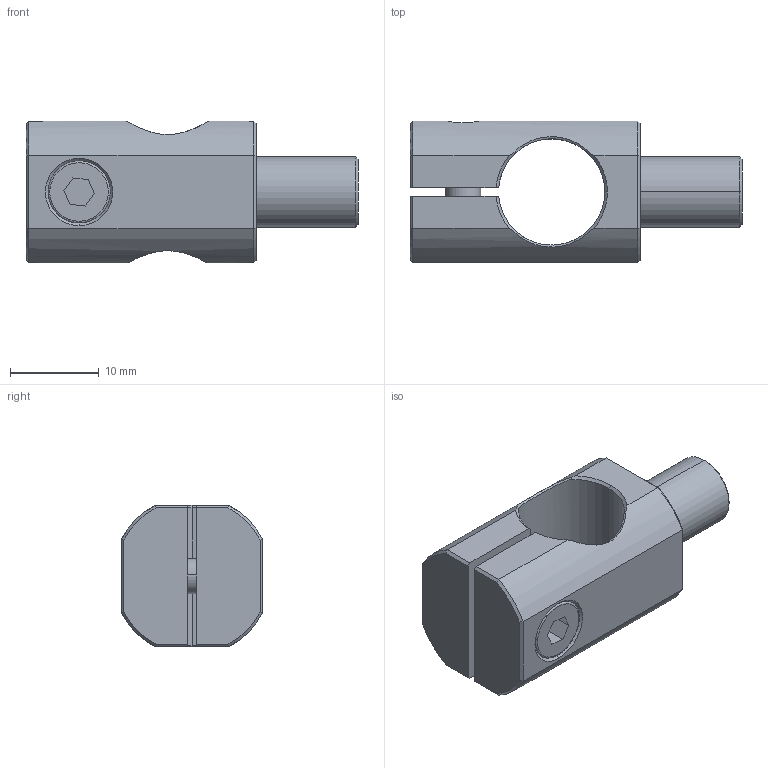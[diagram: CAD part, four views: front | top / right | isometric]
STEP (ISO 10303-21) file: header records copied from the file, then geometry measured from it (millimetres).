
FILE_DESCRIPTION (( 'STEP AP214' ), '1' );
FILE_NAME ('SMBR4-1208M4T.STEP', '2023-01-03T02:19:43', ( 'Windows User' ), ( 'P R C' ), 'SwSTEP 2.0', 'SolidWorks 2018', '' );
FILE_SCHEMA (( 'AUTOMOTIVE_DESIGN' ));
Length unit declared in the file: millimetre
Products named in the file (1): SMBR4-1208M4T
Bounding box: 37.5 x 16 x 16 mm (x, y, z)
Volume: 4282.8 mm3; surface area: 3492.6 mm2
Topology: 3 solids, 3 shells, 285 faces, 795 edges, 519 vertices
Faces by surface type: plane 230, cylinder 26, cone 23, bspline 6
Entity records: 14497 total; most frequent: CARTESIAN_POINT 3855, ORIENTED_EDGE 1590, DIRECTION 1568, EDGE_CURVE 795, AXIS2_PLACEMENT_3D 545, VERTEX_POINT 519, VECTOR 478, LINE 478
